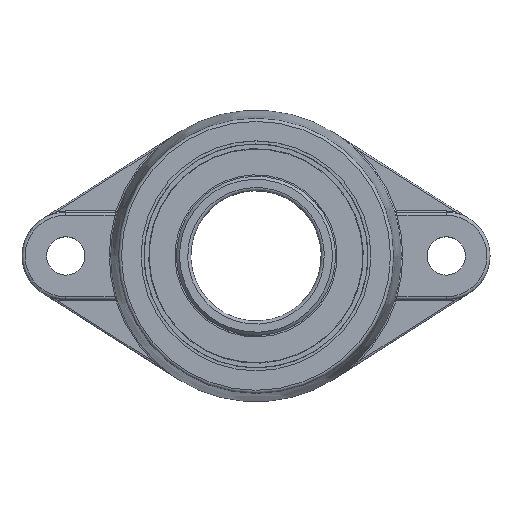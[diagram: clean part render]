
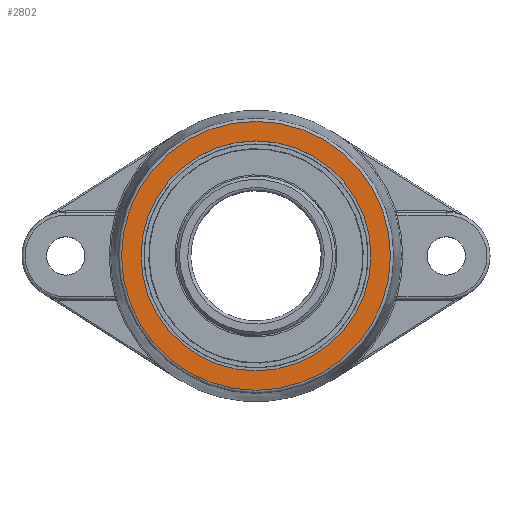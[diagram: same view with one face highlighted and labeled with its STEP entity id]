
A CAD part, top view. The second image highlights one B-rep face of the part: STEP entity #2802.
In plain terms, the highlighted planar face has unit normal (0, 0, 1).
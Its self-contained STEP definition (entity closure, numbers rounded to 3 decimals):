
#125=FACE_BOUND('',#681,.T.);
#154=PLANE('',#3195);
#514=FACE_OUTER_BOUND('',#680,.T.);
#680=EDGE_LOOP('',(#2125));
#681=EDGE_LOOP('',(#2126));
#970=CIRCLE('',#3194,87.64);
#971=CIRCLE('',#3196,74.93);
#1237=VERTEX_POINT('',#5923);
#1238=VERTEX_POINT('',#5927);
#1581=EDGE_CURVE('',#1237,#1237,#970,.T.);
#1582=EDGE_CURVE('',#1238,#1238,#971,.T.);
#2125=ORIENTED_EDGE('',*,*,#1581,.F.);
#2126=ORIENTED_EDGE('',*,*,#1582,.T.);
#2802=ADVANCED_FACE('',(#514,#125),#154,.T.);
#3194=AXIS2_PLACEMENT_3D('',#5925,#3758,#3759);
#3195=AXIS2_PLACEMENT_3D('',#5926,#3760,#3761);
#3196=AXIS2_PLACEMENT_3D('',#5928,#3762,#3763);
#3758=DIRECTION('center_axis',(0.,0.,-1.));
#3759=DIRECTION('ref_axis',(1.,0.,0.));
#3760=DIRECTION('center_axis',(0.,0.,1.));
#3761=DIRECTION('ref_axis',(1.,0.,0.));
#3762=DIRECTION('center_axis',(0.,0.,-1.));
#3763=DIRECTION('ref_axis',(1.,0.,0.));
#5923=CARTESIAN_POINT('',(87.64,0.,63.));
#5925=CARTESIAN_POINT('Origin',(0.,0.,63.));
#5926=CARTESIAN_POINT('Origin',(-89.378,0.,63.));
#5927=CARTESIAN_POINT('',(74.93,0.,63.));
#5928=CARTESIAN_POINT('Origin',(0.,0.,63.));
